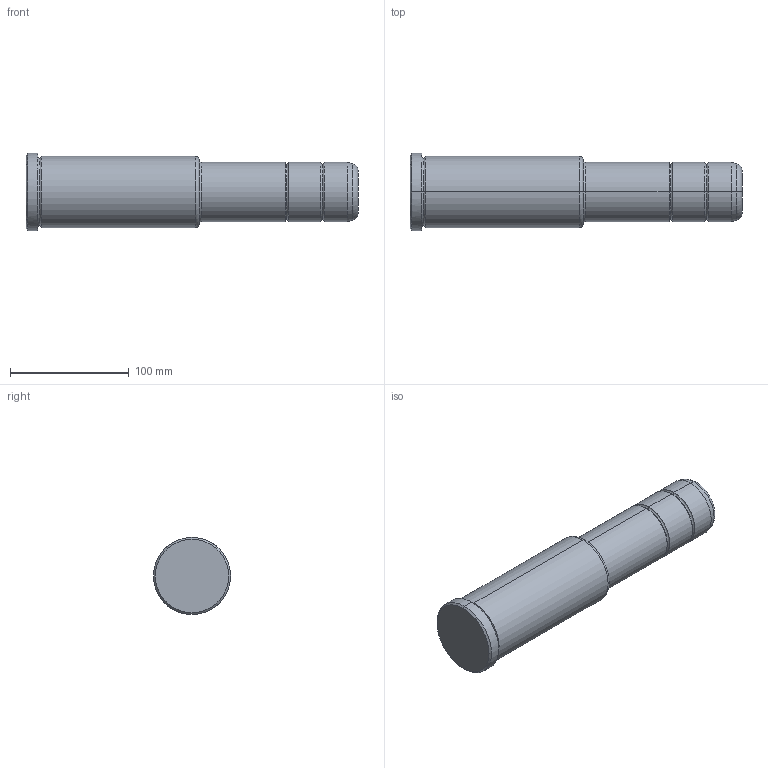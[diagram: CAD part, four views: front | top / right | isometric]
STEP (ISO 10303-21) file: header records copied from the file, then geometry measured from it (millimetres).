
FILE_DESCRIPTION(('CATIA V5 STEP Exchange'),'2;1');
FILE_NAME('C:\Users\Utente\Desktop\IO LAVORO\3D X SITO CF\X SITO\PLASTICA\351\351-50X146X280.stp','2021-11-03T19:24:16+00:00',('none'),('none'),'CATIA Version 5 Release 20 GA (IN-10)','CATIA V5 STEP AP203','none');
FILE_SCHEMA(('CONFIG_CONTROL_DESIGN'));
Length unit declared in the file: millimetre
Products named in the file (1): 351-50X146X280
Bounding box: 280 x 65 x 65 mm (x, y, z)
Volume: 676436 mm3; surface area: 54992.9 mm2
Topology: 1 solids, 1 shells, 35 faces, 98 edges, 66 vertices
Faces by surface type: torus 18, cylinder 10, cone 4, plane 3
Entity records: 1198 total; most frequent: CARTESIAN_POINT 256, ORIENTED_EDGE 196, DIRECTION 164, AXIS2_PLACEMENT_3D 116, EDGE_CURVE 98, CIRCLE 80, VERTEX_POINT 66, EDGE_LOOP 36
